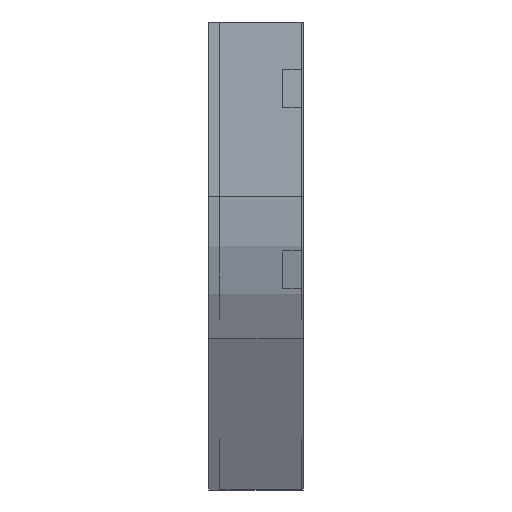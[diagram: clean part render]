
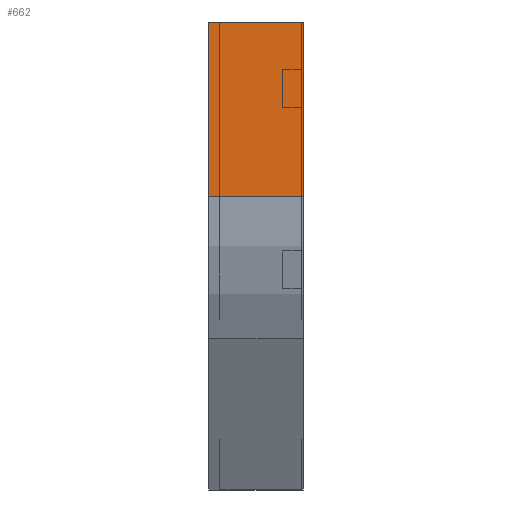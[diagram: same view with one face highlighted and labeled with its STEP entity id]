
A CAD part, left-side view. The second image highlights one B-rep face of the part: STEP entity #662.
In plain terms, the highlighted planar face has unit normal (-1, 0, 0).
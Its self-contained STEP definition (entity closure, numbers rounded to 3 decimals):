
#86 = VERTEX_POINT ( 'NONE', #877 ) ;
#170 = CARTESIAN_POINT ( 'NONE',  ( 0., 100., -183.975 ) ) ;
#177 = LINE ( 'NONE', #744, #747 ) ;
#299 = DIRECTION ( 'NONE',  ( 0., -1., 0. ) ) ;
#349 = CARTESIAN_POINT ( 'NONE',  ( 0., 0., 0. ) ) ;
#355 = CARTESIAN_POINT ( 'NONE',  ( 0., 100., 0. ) ) ;
#429 = PLANE ( 'NONE',  #1499 ) ;
#471 = VERTEX_POINT ( 'NONE', #170 ) ;
#476 = ORIENTED_EDGE ( 'NONE', *, *, #1041, .T. ) ;
#510 = VECTOR ( 'NONE', #1234, 1000. ) ;
#576 = DIRECTION ( 'NONE',  ( 0., -1., 0. ) ) ;
#596 = VERTEX_POINT ( 'NONE', #1199 ) ;
#602 = ORIENTED_EDGE ( 'NONE', *, *, #874, .T. ) ;
#612 = ORIENTED_EDGE ( 'NONE', *, *, #953, .F. ) ;
#657 = VECTOR ( 'NONE', #576, 1000. ) ;
#662 = ADVANCED_FACE ( 'NONE', ( #1087 ), #429, .F. ) ;
#699 = DIRECTION ( 'NONE',  ( 0., 0., -1. ) ) ;
#744 = CARTESIAN_POINT ( 'NONE',  ( 0., 0., 0. ) ) ;
#747 = VECTOR ( 'NONE', #299, 1000. ) ;
#821 = VERTEX_POINT ( 'NONE', #861 ) ;
#861 = CARTESIAN_POINT ( 'NONE',  ( 0., 0., -183.975 ) ) ;
#874 = EDGE_CURVE ( 'NONE', #471, #821, #1595, .T. ) ;
#877 = CARTESIAN_POINT ( 'NONE',  ( 0., 0., 0. ) ) ;
#921 = EDGE_CURVE ( 'NONE', #596, #86, #177, .T. ) ;
#932 = ORIENTED_EDGE ( 'NONE', *, *, #921, .F. ) ;
#953 = EDGE_CURVE ( 'NONE', #86, #821, #1776, .T. ) ;
#1041 = EDGE_CURVE ( 'NONE', #596, #471, #1519, .T. ) ;
#1087 = FACE_OUTER_BOUND ( 'NONE', #1506, .T. ) ;
#1122 = CARTESIAN_POINT ( 'NONE',  ( 0., 0., 0. ) ) ;
#1199 = CARTESIAN_POINT ( 'NONE',  ( 0., 100., 0. ) ) ;
#1215 = DIRECTION ( 'NONE',  ( 0., 0., -1. ) ) ;
#1234 = DIRECTION ( 'NONE',  ( 0., 0., -1. ) ) ;
#1499 = AXIS2_PLACEMENT_3D ( 'NONE', #1122, #1523, #699 ) ;
#1501 = VECTOR ( 'NONE', #1215, 1000. ) ;
#1506 = EDGE_LOOP ( 'NONE', ( #612, #932, #476, #602 ) ) ;
#1519 = LINE ( 'NONE', #355, #510 ) ;
#1523 = DIRECTION ( 'NONE',  ( 1., 0., 0. ) ) ;
#1595 = LINE ( 'NONE', #1764, #657 ) ;
#1764 = CARTESIAN_POINT ( 'NONE',  ( 0., 0., -183.975 ) ) ;
#1776 = LINE ( 'NONE', #349, #1501 ) ;
